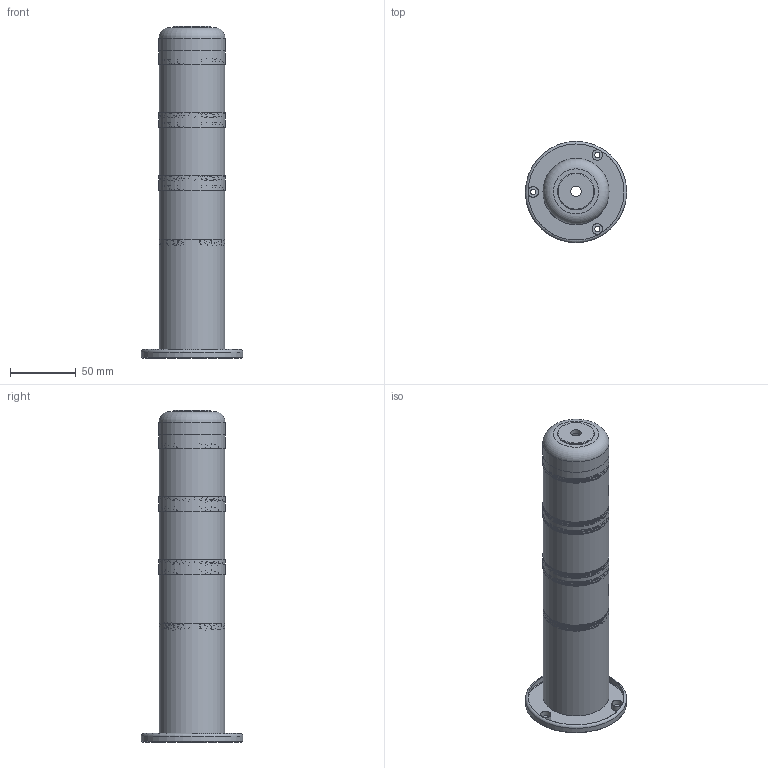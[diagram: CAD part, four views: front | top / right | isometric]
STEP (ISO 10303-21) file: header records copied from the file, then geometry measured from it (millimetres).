
FILE_DESCRIPTION(/* description */ (''),/* implementation_level */ '2;1');
FILE_NAME(/* name */ 'OLE1-301 带蜂鸣.stp',/* time_stamp */ '2022-12-13T18:13:24+08:00',/* author */ (''),/* organization */ (''),/* preprocessor_version */ 'ST-DEVELOPER v16.7',/* originating_system */ 'SIEMENS PLM Software NX 12.0',/* authorisation */ '');
FILE_SCHEMA (('AUTOMOTIVE_DESIGN { 1 0 10303 214 3 1 1 1 }'));
Products named in the file (1): Admi15EC76A1t4nv
Bounding box: 77 x 77 x 252.5 mm (x, y, z)
Volume: 139276.3 mm3; surface area: 126192.6 mm2
Topology: 10 solids, 11 shells, 1539 faces, 3701 edges, 2468 vertices
Faces by surface type: plane 1402, cylinder 76, bspline 48, cone 10, torus 3
Full cylindrical faces by diameter (mm): 4 x3, 8 x4, 18 x1, 21.5 x1, 28 x1, 32 x3, 38 x1, 42 x1, 44.2 x3, 45 x1, 45.5 x8, 46.3 x5, 47 x1, 50 x4, 50.3 x4, 77 x1
Entity records: 63380 total; most frequent: CARTESIAN_POINT 29414, ORIENTED_EDGE 7170, DIRECTION 5937, EDGE_CURVE 3585, LINE 2739, VECTOR 2739, VERTEX_POINT 2412, EDGE_LOOP 1883
